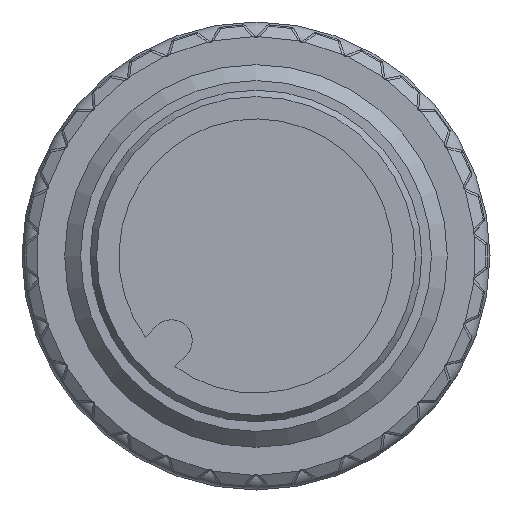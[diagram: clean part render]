
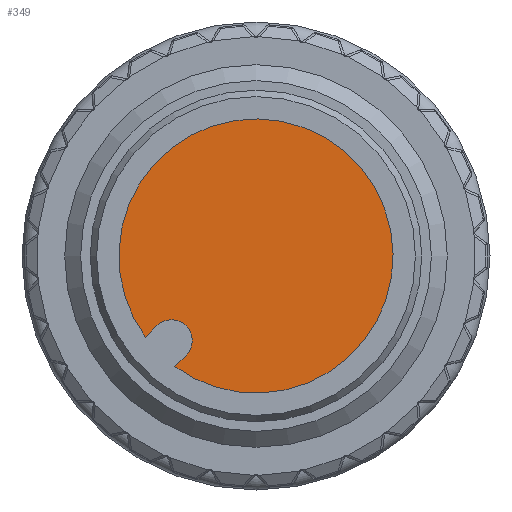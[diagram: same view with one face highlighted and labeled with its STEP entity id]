
A CAD part, left-side view. The second image highlights one B-rep face of the part: STEP entity #349.
In plain terms, the highlighted planar face has unit normal (-1, 0, 0).
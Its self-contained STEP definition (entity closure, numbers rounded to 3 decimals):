
#246=CARTESIAN_POINT('',(0.,2.192,-3.111));
#247=VERTEX_POINT('',#246);
#254=CARTESIAN_POINT('',(0.,3.111,-2.192));
#255=VERTEX_POINT('',#254);
#256=CARTESIAN_POINT('',(0.,2.652,-2.652));
#257=DIRECTION('',(1.0,0.0,0.0));
#258=DIRECTION('',(0.0,-1.0,0.0));
#259=AXIS2_PLACEMENT_3D('',#256,#257,#258);
#260=CIRCLE('',#259,0.65);
#261=EDGE_CURVE('',#247,#255,#260,.F.);
#278=CARTESIAN_POINT('',(0.,3.465,-2.546));
#279=VERTEX_POINT('',#278);
#280=CARTESIAN_POINT('',(0.,3.465,-2.546));
#281=DIRECTION('',(0.0,-0.707,0.707));
#282=VECTOR('',#281,0.501);
#283=LINE('',#280,#282);
#284=EDGE_CURVE('',#279,#255,#283,.T.);
#303=CARTESIAN_POINT('',(0.,2.546,-3.465));
#304=VERTEX_POINT('',#303);
#311=CARTESIAN_POINT('',(0.,2.192,-3.111));
#312=DIRECTION('',(0.0,0.707,-0.707));
#313=VECTOR('',#312,0.501);
#314=LINE('',#311,#313);
#315=EDGE_CURVE('',#247,#304,#314,.T.);
#326=CARTESIAN_POINT('',(0.,0.0,0.0));
#327=DIRECTION('',(1.0,0.0,0.0));
#328=DIRECTION('',(0.0,1.0,0.0));
#329=AXIS2_PLACEMENT_3D('',#326,#327,#328);
#330=CIRCLE('',#329,4.3);
#331=EDGE_CURVE('',#279,#304,#330,.T.);
#338=CARTESIAN_POINT('',(0.,2.15,0.0));
#339=DIRECTION('',(-1.0,0.0,0.0));
#340=DIRECTION('',(0.0,0.0,1.0));
#341=AXIS2_PLACEMENT_3D('',#338,#339,#340);
#342=PLANE('',#341);
#343=ORIENTED_EDGE('',*,*,#284,.T.);
#344=ORIENTED_EDGE('',*,*,#261,.F.);
#345=ORIENTED_EDGE('',*,*,#315,.T.);
#346=ORIENTED_EDGE('',*,*,#331,.F.);
#347=EDGE_LOOP('',(#343,#344,#345,#346));
#348=FACE_OUTER_BOUND('',#347,.T.);
#349=ADVANCED_FACE('',(#348),#342,.T.);
